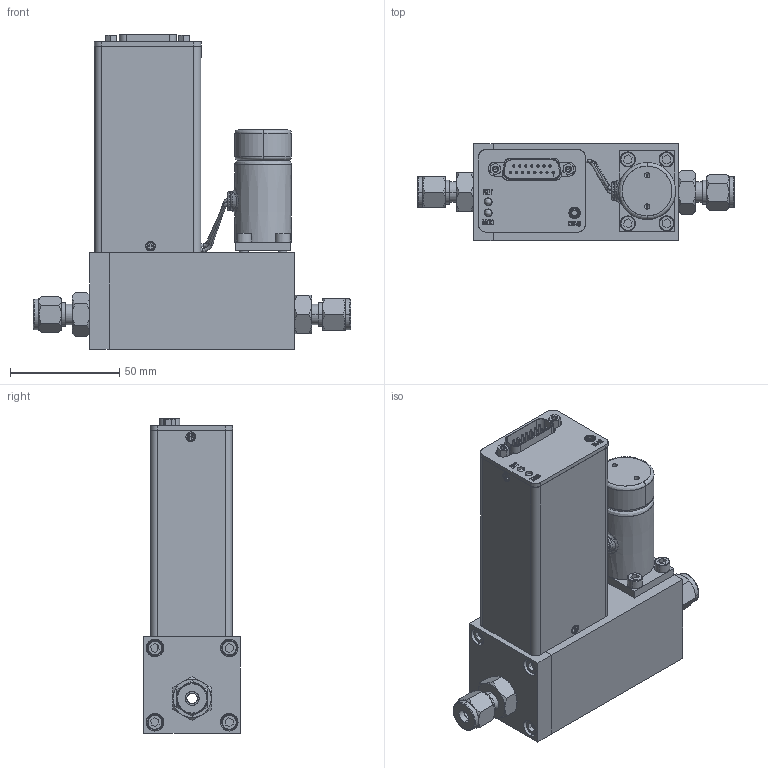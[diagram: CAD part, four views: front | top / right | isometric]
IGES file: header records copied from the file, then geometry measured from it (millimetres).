
Start section: SolidWorks IGES file using analytic representation for surfaces
Global section: file name: G:\Engineering\CAD MODELS FOR SALES\CAD MODEL STORAGE\SLA\SLA5851\CUSTOMER FILES\IGES\SLA5851-S-1B-1-L-REVB.IGS; native system: SolidWorks 2020; preprocessor: SolidWorks 2020; author: SThen; date: 230308.160642; units: inch
Bounding box: 144.86 x 44.3 x 143.85 mm (x, y, z)
Surface area: 98436.9 mm2 (no closed solid volume)
Topology: 0 solids, 0 shells, 1342 faces, 15472 edges, 15464 vertices
Faces by surface type: bspline 781, revolution 561
